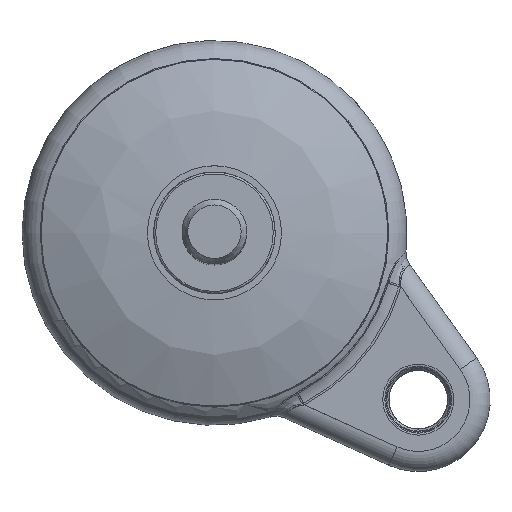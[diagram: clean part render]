
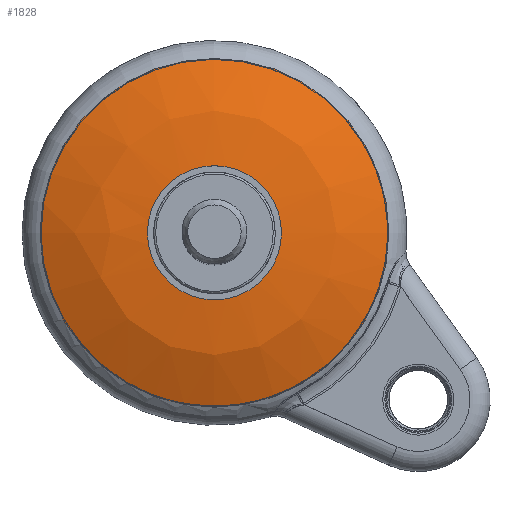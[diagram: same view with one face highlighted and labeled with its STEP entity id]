
A CAD part, top view. The second image highlights one B-rep face of the part: STEP entity #1828.
In plain terms, the highlighted free-form (B-spline) face has degree [2, 2] with [3, 9] control points.
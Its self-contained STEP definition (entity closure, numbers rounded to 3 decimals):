
#371=FACE_OUTER_BOUND('',#497,.T.);
#497=EDGE_LOOP('',(#1285,#1286,#1287,#1288));
#656=CIRCLE('',#2040,43.028);
#661=CIRCLE('',#2045,16.55);
#662=CIRCLE('',#2046,60.);
#815=VERTEX_POINT('',#2968);
#824=VERTEX_POINT('',#3062);
#997=EDGE_CURVE('',#815,#815,#656,.T.);
#1007=EDGE_CURVE('',#824,#824,#661,.T.);
#1008=EDGE_CURVE('',#824,#815,#662,.T.);
#1285=ORIENTED_EDGE('',*,*,#1007,.T.);
#1286=ORIENTED_EDGE('',*,*,#1008,.T.);
#1287=ORIENTED_EDGE('',*,*,#997,.F.);
#1288=ORIENTED_EDGE('',*,*,#1008,.F.);
#1822=(
BOUNDED_SURFACE()
B_SPLINE_SURFACE(2,2,((#3035,#3036,#3037,#3038,#3039,#3040,#3041,#3042,
#3043),(#3044,#3045,#3046,#3047,#3048,#3049,#3050,#3051,#3052),(#3053,#3054,
#3055,#3056,#3057,#3058,#3059,#3060,#3061)),.UNSPECIFIED.,.F.,.T.,.F.)
B_SPLINE_SURFACE_WITH_KNOTS((3,3),(3,2,2,2,3),(1.114,1.571),
(-3.142,-1.571,0.,1.571,3.142),
 .UNSPECIFIED.)
GEOMETRIC_REPRESENTATION_ITEM()
RATIONAL_B_SPLINE_SURFACE(((1.,0.707,1.,0.707,1.,
0.707,1.,0.707,1.),(0.974,0.689,
0.974,0.689,0.974,0.689,0.974,
0.689,0.974),(1.,0.707,1.,0.707,
1.,0.707,1.,0.707,1.)))
REPRESENTATION_ITEM('')
SURFACE()
);
#1828=ADVANCED_FACE('',(#371),#1822,.F.);
#2040=AXIS2_PLACEMENT_3D('',#2969,#2323,#2324);
#2045=AXIS2_PLACEMENT_3D('',#3063,#2333,#2334);
#2046=AXIS2_PLACEMENT_3D('',#3064,#2335,#2336);
#2323=DIRECTION('center_axis',(0.,0.,
-1.));
#2324=DIRECTION('ref_axis',(0.774,-0.633,0.));
#2333=DIRECTION('center_axis',(0.,0.,
-1.));
#2334=DIRECTION('ref_axis',(-0.774,0.633,0.));
#2335=DIRECTION('center_axis',(0.,-1.,0.));
#2336=DIRECTION('ref_axis',(-1.,0.,0.));
#2968=CARTESIAN_POINT('',(-43.028,0.,-8.158));
#2969=CARTESIAN_POINT('Origin',(0.,0.,
-8.158));
#3035=CARTESIAN_POINT('Ctrl Pts',(-43.028,0.,
-8.158));
#3036=CARTESIAN_POINT('Ctrl Pts',(-43.028,-43.028,-8.158));
#3037=CARTESIAN_POINT('Ctrl Pts',(0.,-43.028,
-8.158));
#3038=CARTESIAN_POINT('Ctrl Pts',(43.028,-43.028,-8.158));
#3039=CARTESIAN_POINT('Ctrl Pts',(43.028,0.,
-8.158));
#3040=CARTESIAN_POINT('Ctrl Pts',(43.028,43.028,-8.158));
#3041=CARTESIAN_POINT('Ctrl Pts',(0.,43.028,
-8.158));
#3042=CARTESIAN_POINT('Ctrl Pts',(-43.028,43.028,-8.158));
#3043=CARTESIAN_POINT('Ctrl Pts',(-43.028,0.,
-8.158));
#3044=CARTESIAN_POINT('Ctrl Pts',(-30.505,0.,
-2.));
#3045=CARTESIAN_POINT('Ctrl Pts',(-30.505,-30.505,-2.));
#3046=CARTESIAN_POINT('Ctrl Pts',(0.,-30.505,
-2.));
#3047=CARTESIAN_POINT('Ctrl Pts',(30.505,-30.505,-2.));
#3048=CARTESIAN_POINT('Ctrl Pts',(30.505,0.,
-2.));
#3049=CARTESIAN_POINT('Ctrl Pts',(30.505,30.505,-2.));
#3050=CARTESIAN_POINT('Ctrl Pts',(0.,30.505,
-2.));
#3051=CARTESIAN_POINT('Ctrl Pts',(-30.505,30.505,-2.));
#3052=CARTESIAN_POINT('Ctrl Pts',(-30.505,0.,
-2.));
#3053=CARTESIAN_POINT('Ctrl Pts',(-16.55,0.,
-2.));
#3054=CARTESIAN_POINT('Ctrl Pts',(-16.55,-16.55,-2.));
#3055=CARTESIAN_POINT('Ctrl Pts',(0.,-16.55,
-2.));
#3056=CARTESIAN_POINT('Ctrl Pts',(16.55,-16.55,-2.));
#3057=CARTESIAN_POINT('Ctrl Pts',(16.55,0.,
-2.));
#3058=CARTESIAN_POINT('Ctrl Pts',(16.55,16.55,-2.));
#3059=CARTESIAN_POINT('Ctrl Pts',(0.,16.55,-2.));
#3060=CARTESIAN_POINT('Ctrl Pts',(-16.55,16.55,-2.));
#3061=CARTESIAN_POINT('Ctrl Pts',(-16.55,0.,
-2.));
#3062=CARTESIAN_POINT('',(-16.55,0.,-2.));
#3063=CARTESIAN_POINT('Origin',(0.,0.,
-2.));
#3064=CARTESIAN_POINT('Origin',(-16.55,0.,-62.));
